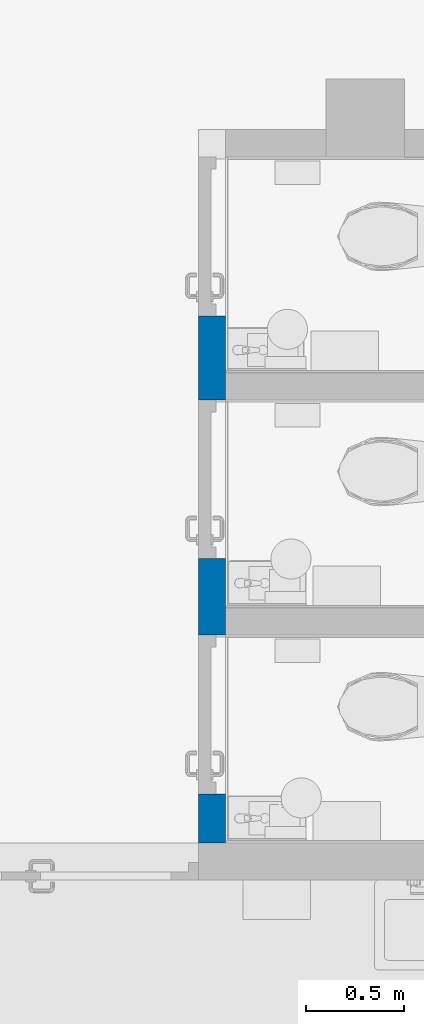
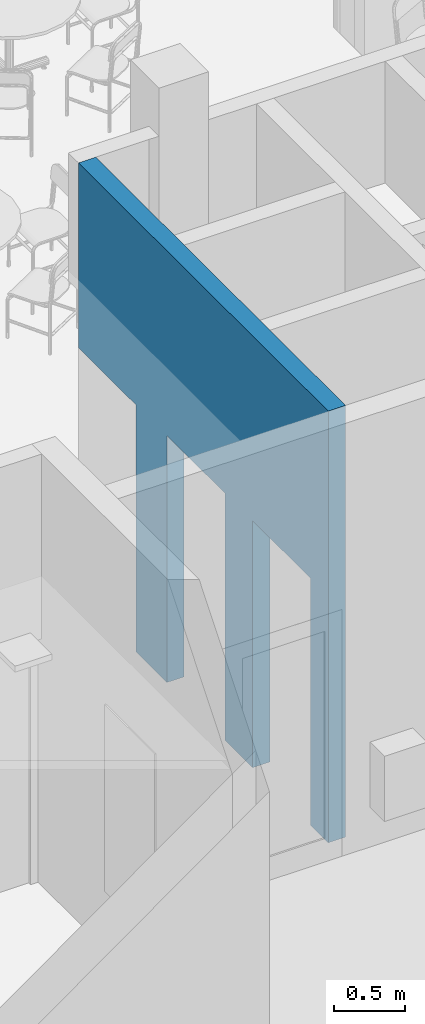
# One storey, part 98 of 301: 1 wall, 3 openings.
"""IFC2X3 building model written with IfcOpenShell, lengths in millimetres."""

from ifc_helpers import new_model, entity, si_unit, converted_unit, derived_unit, money_unit, direction, frame, origin_with_axes, place, context, subcontext, project, spatial, faceted_brep, material, type_object, element, save


model = new_model("IFC2X3")

# Units and contexts
model_context = context("Model", 3, precision=0.01, world=origin_with_axes(), true_north=direction((0.0, 1.0)))
body_context = subcontext(model_context, "Body", "Model", "MODEL_VIEW")
ifc_project = project(units=[si_unit("LENGTHUNIT", "METRE", prefix="MILLI"), si_unit("AREAUNIT", "SQUARE_METRE"), si_unit("VOLUMEUNIT", "CUBIC_METRE"), converted_unit("PLANEANGLEUNIT", "DEGREE", entity("IfcPlaneAngleMeasure", 0.0174532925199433), si_unit("PLANEANGLEUNIT", "RADIAN"), dimensions=[0, 0, 0, 0, 0, 0, 0]), money_unit("EUR"), converted_unit("TIMEUNIT", "Year", entity("IfcTimeMeasure", 31557600.0), si_unit("TIMEUNIT", "SECOND"), dimensions=[0, 0, 1, 0, 0, 0, 0]), si_unit("MASSUNIT", "GRAM", prefix="KILO"), si_unit("THERMODYNAMICTEMPERATUREUNIT", "DEGREE_CELSIUS"), si_unit("LUMINOUSINTENSITYUNIT", "LUMEN"), si_unit("ENERGYUNIT", "JOULE", prefix="MEGA"), derived_unit("THERMALCONDUCTANCEUNIT", [(si_unit("POWERUNIT", "WATT"), 1), (si_unit("LENGTHUNIT", "METRE"), -1), (si_unit("THERMODYNAMICTEMPERATUREUNIT", "KELVIN"), -1)]), derived_unit("SPECIFICHEATCAPACITYUNIT", [(si_unit("ENERGYUNIT", "JOULE"), 1), (si_unit("MASSUNIT", "GRAM", prefix="KILO"), -1), (si_unit("THERMODYNAMICTEMPERATUREUNIT", "KELVIN"), -1)]), derived_unit("MASSDENSITYUNIT", [(si_unit("MASSUNIT", "GRAM", prefix="KILO"), 1), (si_unit("VOLUMEUNIT", "CUBIC_METRE"), -1)])], contexts=[model_context])

# Site, building, storey
site_placement = place(None, frame((0.0, 0.0, 8650.0), z_axis=(0.0, 0.0, 1.0), x_axis=(1.0, 0.0, 0.0)))
site = spatial("IfcSite", under=ifc_project, at=site_placement, Name="43301:001:0844", CompositionType="ELEMENT")
building_placement = place(site_placement, origin_with_axes())
building = spatial("IfcBuilding", under=site, at=building_placement, Name="Kuressaare Ametikooli tuulikute mehaanikute õppekorpus", CompositionType="ELEMENT")
storey_placement = place(building_placement, origin_with_axes())
storey = spatial("IfcBuildingStorey", under=building, at=storey_placement, Name="1.korrus", CompositionType="ELEMENT", Elevation=0.0)

# Wall, openings
ifc_material = material(Name="Betoonõõnesplokk")
wall_type = type_object("IfcWallType", Name="SS-1.2 140", PredefinedType="NOTDEFINED")
wall_placement = place(storey_placement, frame((125205.2609256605, 20074.46984143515, 0.0), z_axis=(0.0, 0.0, 1.0), x_axis=(-1.369512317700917e-07, 0.9999999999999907, 0.0)))
wall = element("IfcWall", 1, at=wall_placement, inside=storey, type_object=wall_type, material=ifc_material, Name="Sisesein", context=body_context, shape_type="Brep", body=[
    faceted_brep([(2689.599082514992, 0.0, 0.0), (2689.599082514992, 0.0, 2110.0), (3499.59908251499, 0.0, 2110.0), (3499.59908251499, 0.0, 2600.0), (3499.59908251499, 0.0, 3690.0), (0.0, 0.0, 3690.0), (0.0, 0.0, 0.0), (250.0000000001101, 0.0, 0.0), (250.0000000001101, 0.0, 2110.0), (1060.000000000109, 0.0, 2110.0), (1060.000000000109, 0.0, 0.0), (1450.000150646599, 0.0, 0.0), (1450.000150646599, 0.0, 2110.0), (2260.000150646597, 0.0, 2110.0), (2260.000150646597, 0.0, 0.0), (2689.599082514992, 140.0000000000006, 0.0), (2689.599082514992, 140.0000000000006, 2110.0), (3499.59908251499, 140.0000000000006, 2110.0), (3499.599101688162, 140.0000000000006, 2600.0), (3499.599101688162, 140.0000000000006, 3690.0), (1.91731750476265e-05, 140.0000000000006, 3690.0), (1.91731750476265e-05, 140.0000000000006, 0.0), (250.0000000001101, 139.9999999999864, 0.0), (250.0000000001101, 139.9999999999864, 2110.0), (1060.000000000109, 140.0000000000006, 2110.0), (1060.000000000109, 140.0000000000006, 0.0), (1450.000150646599, 140.0000000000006, 0.0), (1450.000150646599, 140.0000000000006, 2110.0), (2260.000150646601, 140.0000000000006, 2110.0), (2260.000150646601, 140.0000000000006, 0.0)], [[[0, 1, 2, 3, 4, 5, 6, 7, 8, 9, 10, 11, 12, 13, 14]], [[1, 0, 15, 16]], [[17, 2, 1, 16]], [[2, 17, 18, 3]], [[3, 18, 19, 4]], [[19, 20, 5, 4]], [[21, 6, 5, 20]], [[7, 6, 21, 22]], [[7, 22, 23, 8]], [[8, 23, 24, 9]], [[9, 24, 25, 10]], [[25, 26, 11, 10]], [[26, 27, 12, 11]], [[27, 28, 13, 12]], [[28, 29, 14, 13]], [[15, 0, 14, 29]], [[16, 15, 29, 28, 27, 26, 25, 24, 23, 22, 21, 20, 19, 18, 17]]]),
])
opening_1_placement = place(wall_placement, frame((1855.000150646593, 0.0, 0.0), z_axis=(0.0, 0.0, 1.0), x_axis=(1.0, 0.0, 0.0)))
element("IfcOpeningElement", 2, at=opening_1_placement, cuts=wall, Name="PU8", context=body_context, shape_type="Brep", body=[
    faceted_brep([(-404.9999999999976, -1.000479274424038, 2110.0), (-404.9999999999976, -1.000479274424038, 0.0), (405.0000000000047, -1.000479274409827, 0.0), (405.0000000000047, -1.000479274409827, 2110.0), (-404.9999999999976, 141.0004792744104, 2110.0), (-404.9999999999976, 141.0004792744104, 0.0), (405.0000000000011, 141.0004792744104, 0.0), (405.0000000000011, 141.0004792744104, 2110.0)], [[[0, 1, 2, 3]], [[4, 5, 1, 0]], [[5, 6, 2, 1]], [[6, 7, 3, 2]], [[7, 4, 0, 3]], [[6, 5, 4, 7]]]),
])
opening_2_placement = place(wall_placement, frame((3094.599082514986, 0.0, 0.0), z_axis=(0.0, 0.0, 1.0), x_axis=(1.0, 0.0, 0.0)))
element("IfcOpeningElement", 3, at=opening_2_placement, cuts=wall, Name="PU8", context=body_context, shape_type="Brep", body=[
    faceted_brep([(-404.9999999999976, -1.000479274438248, 2110.0), (-404.9999999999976, -1.000479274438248, 0.0), (405.0000000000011, -1.000479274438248, 0.0), (405.0000000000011, -1.000479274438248, 2110.0), (-404.9999999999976, 141.0004792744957, 2110.0), (-404.9999999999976, 141.0004792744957, 0.0), (405.0000000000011, 141.0004792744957, 0.0), (405.0000000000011, 141.0004792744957, 2110.0)], [[[0, 1, 2, 3]], [[4, 5, 1, 0]], [[5, 6, 2, 1]], [[6, 7, 3, 2]], [[7, 4, 0, 3]], [[6, 5, 4, 7]]]),
])
opening_3_placement = place(wall_placement, frame((655.0000000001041, 0.0, 0.0), z_axis=(0.0, 0.0, 1.0), x_axis=(1.0, 0.0, 0.0)))
element("IfcOpeningElement", 4, at=opening_3_placement, cuts=wall, Name="PU8", context=body_context, shape_type="Brep", body=[
    faceted_brep([(-404.9999999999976, -1.000479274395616, 2110.0), (-404.9999999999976, -1.000479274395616, 0.0), (405.0000000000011, -1.000479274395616, 0.0), (405.0000000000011, -1.000479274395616, 2110.0), (-404.9999999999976, 141.0004792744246, 2110.0), (-404.9999999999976, 141.0004792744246, 0.0), (405.0000000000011, 141.0004792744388, 0.0), (405.0000000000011, 141.0004792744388, 2110.0)], [[[0, 1, 2, 3]], [[4, 5, 1, 0]], [[5, 6, 2, 1]], [[6, 7, 3, 2]], [[7, 4, 0, 3]], [[6, 5, 4, 7]]]),
])

save(model, "model.ifc")
